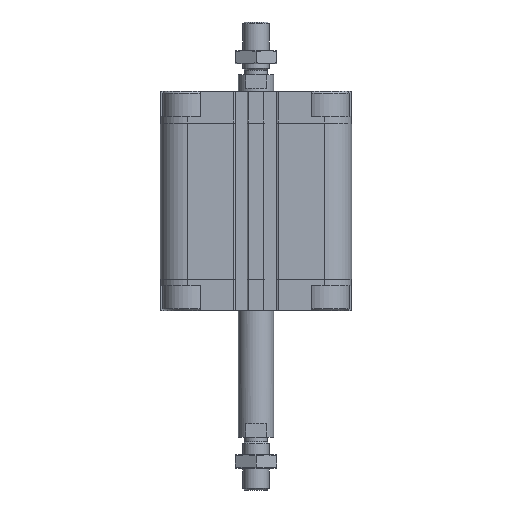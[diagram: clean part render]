
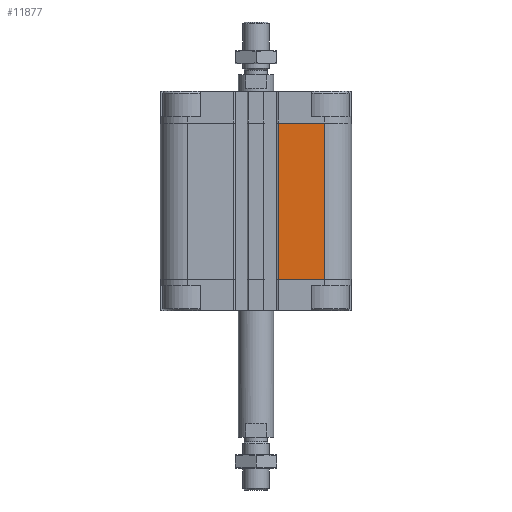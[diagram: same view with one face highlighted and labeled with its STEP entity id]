
A CAD part, front view. The second image highlights one B-rep face of the part: STEP entity #11877.
In plain terms, the highlighted planar face has unit normal (0, -1, 0).
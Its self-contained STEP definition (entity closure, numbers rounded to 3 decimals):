
#113 = VECTOR ( 'NONE', #16441, 1000. ) ;
#448 = DIRECTION ( 'NONE',  ( 1., 0., 0. ) ) ;
#450 = EDGE_LOOP ( 'NONE', ( #15593, #19019, #3580, #9242 ) ) ;
#2466 = AXIS2_PLACEMENT_3D ( 'NONE', #3745, #6858, #10178 ) ;
#2630 = EDGE_CURVE ( 'NONE', #6963, #6879, #9406, .T. ) ;
#3350 = CARTESIAN_POINT ( 'NONE',  ( 31., -43.5, -85.5 ) ) ;
#3580 = ORIENTED_EDGE ( 'NONE', *, *, #18278, .T. ) ;
#3745 = CARTESIAN_POINT ( 'NONE',  ( 10.05, -43.5, -85.5 ) ) ;
#3806 = EDGE_CURVE ( 'NONE', #20714, #6963, #10101, .T. ) ;
#4852 = EDGE_CURVE ( 'NONE', #4866, #6879, #7957, .T. ) ;
#4866 = VERTEX_POINT ( 'NONE', #8278 ) ;
#5271 = DIRECTION ( 'NONE',  ( 0., 0., 1. ) ) ;
#5601 = LINE ( 'NONE', #8499, #19408 ) ;
#5762 = CARTESIAN_POINT ( 'NONE',  ( 31., -43.5, -14.5 ) ) ;
#6858 = DIRECTION ( 'NONE',  ( 0., -1., 0. ) ) ;
#6879 = VERTEX_POINT ( 'NONE', #5762 ) ;
#6963 = VERTEX_POINT ( 'NONE', #20793 ) ;
#7285 = VECTOR ( 'NONE', #5271, 1000. ) ;
#7957 = LINE ( 'NONE', #3350, #113 ) ;
#8249 = PLANE ( 'NONE',  #2466 ) ;
#8278 = CARTESIAN_POINT ( 'NONE',  ( 31., -43.5, -85.5 ) ) ;
#8499 = CARTESIAN_POINT ( 'NONE',  ( 10.05, -43.5, -85.5 ) ) ;
#9242 = ORIENTED_EDGE ( 'NONE', *, *, #4852, .T. ) ;
#9299 = CARTESIAN_POINT ( 'NONE',  ( 10.05, -43.5, -14.5 ) ) ;
#9406 = LINE ( 'NONE', #9299, #10026 ) ;
#10026 = VECTOR ( 'NONE', #17365, 1000. ) ;
#10101 = LINE ( 'NONE', #19989, #7285 ) ;
#10178 = DIRECTION ( 'NONE',  ( -1., 0., 0. ) ) ;
#11877 = ADVANCED_FACE ( 'NONE', ( #19638 ), #8249, .T. ) ;
#13536 = CARTESIAN_POINT ( 'NONE',  ( 10.05, -43.5, -85.5 ) ) ;
#15593 = ORIENTED_EDGE ( 'NONE', *, *, #2630, .F. ) ;
#16441 = DIRECTION ( 'NONE',  ( 0., 0., 1. ) ) ;
#17365 = DIRECTION ( 'NONE',  ( 1., 0., 0. ) ) ;
#18278 = EDGE_CURVE ( 'NONE', #20714, #4866, #5601, .T. ) ;
#19019 = ORIENTED_EDGE ( 'NONE', *, *, #3806, .F. ) ;
#19408 = VECTOR ( 'NONE', #448, 1000. ) ;
#19638 = FACE_OUTER_BOUND ( 'NONE', #450, .T. ) ;
#19989 = CARTESIAN_POINT ( 'NONE',  ( 10.05, -43.5, -85.5 ) ) ;
#20714 = VERTEX_POINT ( 'NONE', #13536 ) ;
#20793 = CARTESIAN_POINT ( 'NONE',  ( 10.05, -43.5, -14.5 ) ) ;
